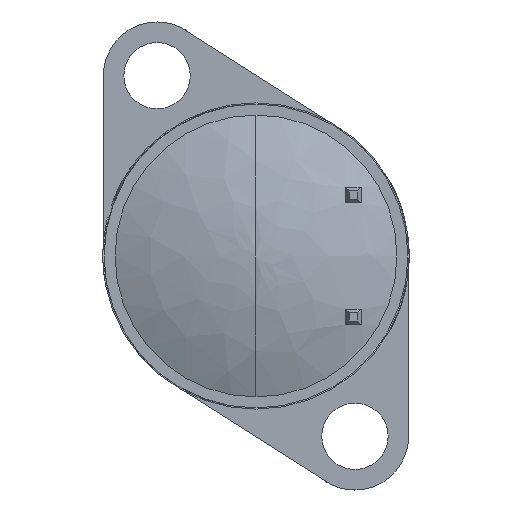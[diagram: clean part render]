
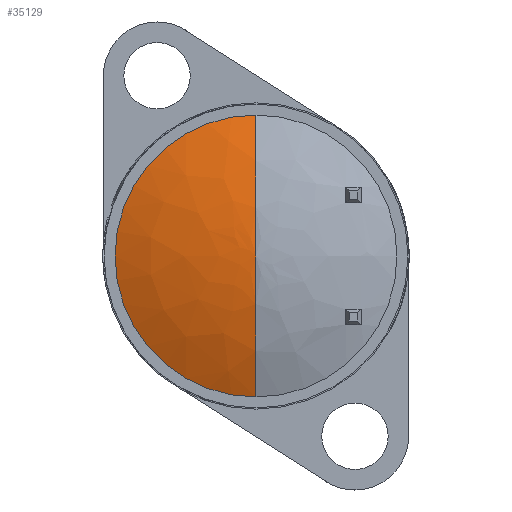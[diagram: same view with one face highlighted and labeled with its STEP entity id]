
A CAD part, front view. The second image highlights one B-rep face of the part: STEP entity #35129.
In plain terms, the highlighted free-form (B-spline) face has degree [2, 3] with [3, 4] control points.
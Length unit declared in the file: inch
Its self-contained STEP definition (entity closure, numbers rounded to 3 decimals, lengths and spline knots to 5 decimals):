
#894 = CARTESIAN_POINT ( 'NONE',  ( 0., -0.76438, 0.1207 ) ) ;
#1128 = CARTESIAN_POINT ( 'NONE',  ( 0., -0.71661, 0.2315 ) ) ;
#1381 = CARTESIAN_POINT ( 'NONE',  ( 0., -0.71661, -0.2315 ) ) ;
#1613 = CARTESIAN_POINT ( 'NONE',  ( 0., -0.76438, -0.1207 ) ) ;
#3282 = B_SPLINE_CURVE_WITH_KNOTS ( 'NONE', 2,
 ( #17147, #16434, #16681 ),
 .UNSPECIFIED., .F., .F.,
 ( 3, 3 ),
 ( 0., 1. ),
 .UNSPECIFIED. ) ;
#5448 =( BOUNDED_SURFACE ( )  B_SPLINE_SURFACE ( 2, 3, ( 
 ( #38977, #28296, #10404, #39208 ),
 ( #6875, #21230, #15310, #894 ),
 ( #15531, #44126, #29464, #1128 ) ),
 .UNSPECIFIED., .F., .F., .T. ) 
 B_SPLINE_SURFACE_WITH_KNOTS ( ( 3, 3 ),
 ( 4, 4 ),
 ( 0., 1. ),
 ( 0., 1. ),
 .UNSPECIFIED. ) 
 GEOMETRIC_REPRESENTATION_ITEM ( )  RATIONAL_B_SPLINE_SURFACE ( (
 ( 1., 0.333, 0.333, 1.),
 ( 1., 0.333, 0.333, 1.),
 ( 1., 0.333, 0.333, 1.) ) ) 
 REPRESENTATION_ITEM ( '' )  SURFACE ( )  );
#6875 = CARTESIAN_POINT ( 'NONE',  ( 0., -0.76438, -0.1207 ) ) ;
#10166 = FACE_OUTER_BOUND ( 'NONE', #35192, .T. ) ;
#10404 = CARTESIAN_POINT ( 'NONE',  ( 0., -0.76661, 0. ) ) ;
#12425 = EDGE_CURVE ( 'NONE', #13746, #41912, #27721, .T. ) ;
#13746 = VERTEX_POINT ( 'NONE', #25943 ) ;
#15310 = CARTESIAN_POINT ( 'NONE',  ( -0.24141, -0.76438, 0.1207 ) ) ;
#15323 = CARTESIAN_POINT ( 'NONE',  ( 0., -0.76661, 0. ) ) ;
#15531 = CARTESIAN_POINT ( 'NONE',  ( 0., -0.71661, -0.2315 ) ) ;
#16322 = CARTESIAN_POINT ( 'NONE',  ( 0., -0.71661, 0. ) ) ;
#16434 = CARTESIAN_POINT ( 'NONE',  ( 0., -0.76438, 0.1207 ) ) ;
#16681 = CARTESIAN_POINT ( 'NONE',  ( 0., -0.71661, 0.2315 ) ) ;
#17147 = CARTESIAN_POINT ( 'NONE',  ( 0., -0.76661, 0. ) ) ;
#20194 = AXIS2_PLACEMENT_3D ( 'NONE', #16322, #30730, #45829 ) ;
#21230 = CARTESIAN_POINT ( 'NONE',  ( -0.24141, -0.76438, -0.1207 ) ) ;
#23399 = VERTEX_POINT ( 'NONE', #34380 ) ;
#25943 = CARTESIAN_POINT ( 'NONE',  ( 0., -0.71661, -0.2315 ) ) ;
#27721 = CIRCLE ( 'NONE', #20194, 0.2315 ) ;
#27842 = EDGE_CURVE ( 'NONE', #23399, #41912, #3282, .T. ) ;
#28296 = CARTESIAN_POINT ( 'NONE',  ( 0., -0.76661, 0. ) ) ;
#29464 = CARTESIAN_POINT ( 'NONE',  ( -0.463, -0.71661, 0.2315 ) ) ;
#30730 = DIRECTION ( 'NONE',  ( 0., 1., 0. ) ) ;
#30939 = ORIENTED_EDGE ( 'NONE', *, *, #45795, .F. ) ;
#32618 = CARTESIAN_POINT ( 'NONE',  ( 0., -0.71661, 0.2315 ) ) ;
#34380 = CARTESIAN_POINT ( 'NONE',  ( 0., -0.76661, 0. ) ) ;
#35129 = ADVANCED_FACE ( 'NONE', ( #10166 ), #5448, .F. ) ;
#35192 = EDGE_LOOP ( 'NONE', ( #30939, #42841, #43232 ) ) ;
#35864 = B_SPLINE_CURVE_WITH_KNOTS ( 'NONE', 2,
 ( #15323, #1613, #1381 ),
 .UNSPECIFIED., .F., .F.,
 ( 3, 3 ),
 ( 0., 1. ),
 .UNSPECIFIED. ) ;
#38977 = CARTESIAN_POINT ( 'NONE',  ( 0., -0.76661, 0. ) ) ;
#39208 = CARTESIAN_POINT ( 'NONE',  ( 0., -0.76661, 0. ) ) ;
#41912 = VERTEX_POINT ( 'NONE', #32618 ) ;
#42841 = ORIENTED_EDGE ( 'NONE', *, *, #27842, .T. ) ;
#43232 = ORIENTED_EDGE ( 'NONE', *, *, #12425, .F. ) ;
#44126 = CARTESIAN_POINT ( 'NONE',  ( -0.463, -0.71661, -0.2315 ) ) ;
#45795 = EDGE_CURVE ( 'NONE', #23399, #13746, #35864, .T. ) ;
#45829 = DIRECTION ( 'NONE',  ( 0., 0., 1. ) ) ;
